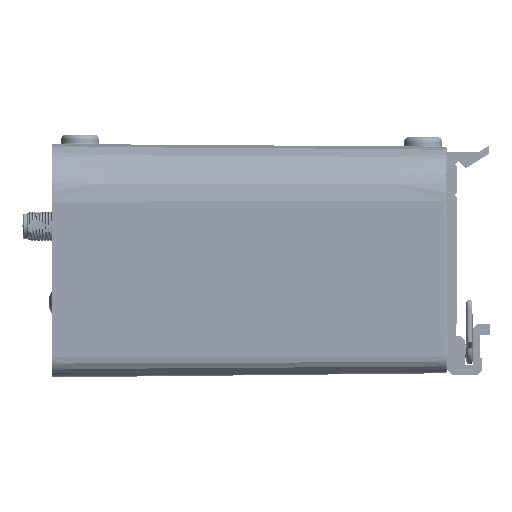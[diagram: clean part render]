
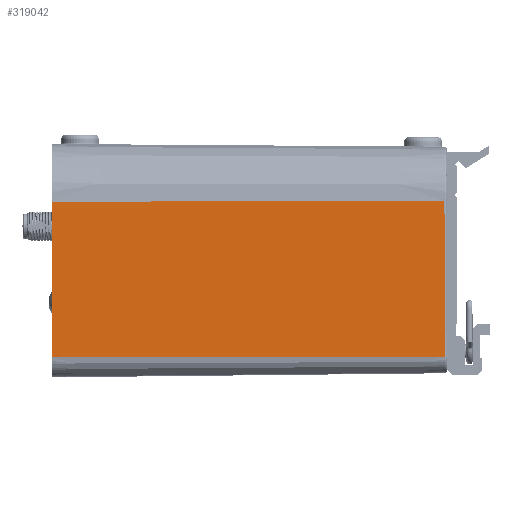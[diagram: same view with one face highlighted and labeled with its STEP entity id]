
A CAD part, front view. The second image highlights one B-rep face of the part: STEP entity #319042.
In plain terms, the highlighted planar face has unit normal (0.009, -1, 0) as drawn and (1, 0, -0.009) by its records, which use the part's own axes.
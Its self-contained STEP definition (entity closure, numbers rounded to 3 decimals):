
#2232 = DIRECTION ( 'NONE',  ( -0.009, 0., -1. ) ) ;
#20764 = VECTOR ( 'NONE', #61355, 1000. ) ;
#21589 = VERTEX_POINT ( 'NONE', #160125 ) ;
#36707 = B_SPLINE_CURVE_WITH_KNOTS ( 'NONE', 1,
 ( #110610, #306011 ),
 .UNSPECIFIED., .F., .F.,
 ( 2, 2 ),
 ( 0., 1. ),
 .UNSPECIFIED. ) ;
#43941 = CARTESIAN_POINT ( 'NONE',  ( 116.23, 24., 83.7 ) ) ;
#48835 = DIRECTION ( 'NONE',  ( 0., 1., 0. ) ) ;
#55860 = EDGE_CURVE ( 'NONE', #21589, #210230, #284667, .T. ) ;
#58379 = EDGE_LOOP ( 'NONE', ( #146774, #320399, #181358, #156949 ) ) ;
#58717 = DIRECTION ( 'NONE',  ( 0., 1., 0. ) ) ;
#61355 = DIRECTION ( 'NONE',  ( -0.009, 0., -1. ) ) ;
#66756 = AXIS2_PLACEMENT_3D ( 'NONE', #245474, #248686, #2232 ) ;
#73509 = LINE ( 'NONE', #43941, #249646 ) ;
#80146 = CARTESIAN_POINT ( 'NONE',  ( 115.504, 3.5, 0.496 ) ) ;
#87661 = CARTESIAN_POINT ( 'NONE',  ( 115.867, 36.5, 42.098 ) ) ;
#110610 = CARTESIAN_POINT ( 'NONE',  ( 115.504, 3.5, 0.496 ) ) ;
#123367 = EDGE_CURVE ( 'NONE', #313476, #210230, #232808, .T. ) ;
#140419 = EDGE_CURVE ( 'NONE', #161838, #21589, #73509, .T. ) ;
#145308 = PLANE ( 'NONE',  #66756 ) ;
#146774 = ORIENTED_EDGE ( 'NONE', *, *, #266435, .F. ) ;
#146905 = FACE_OUTER_BOUND ( 'NONE', #58379, .T. ) ;
#156949 = ORIENTED_EDGE ( 'NONE', *, *, #140419, .F. ) ;
#160125 = CARTESIAN_POINT ( 'NONE',  ( 116.23, 36.5, 83.7 ) ) ;
#161838 = VERTEX_POINT ( 'NONE', #209335 ) ;
#181358 = ORIENTED_EDGE ( 'NONE', *, *, #55860, .F. ) ;
#196573 = VECTOR ( 'NONE', #58717, 1000. ) ;
#209335 = CARTESIAN_POINT ( 'NONE',  ( 116.23, 3.5, 83.7 ) ) ;
#210230 = VERTEX_POINT ( 'NONE', #242100 ) ;
#232808 = LINE ( 'NONE', #259088, #196573 ) ;
#242100 = CARTESIAN_POINT ( 'NONE',  ( 115.504, 36.5, 0.496 ) ) ;
#245474 = CARTESIAN_POINT ( 'NONE',  ( 115.5, 1.1, 0. ) ) ;
#248686 = DIRECTION ( 'NONE',  ( 1., 0., -0.009 ) ) ;
#249646 = VECTOR ( 'NONE', #48835, 1000. ) ;
#259088 = CARTESIAN_POINT ( 'NONE',  ( 115.504, 1.1, 0.496 ) ) ;
#266435 = EDGE_CURVE ( 'NONE', #313476, #161838, #36707, .T. ) ;
#284667 = LINE ( 'NONE', #87661, #20764 ) ;
#306011 = CARTESIAN_POINT ( 'NONE',  ( 116.23, 3.5, 83.7 ) ) ;
#313476 = VERTEX_POINT ( 'NONE', #80146 ) ;
#319042 = ADVANCED_FACE ( 'NONE', ( #146905 ), #145308, .T. ) ;
#320399 = ORIENTED_EDGE ( 'NONE', *, *, #123367, .T. ) ;
